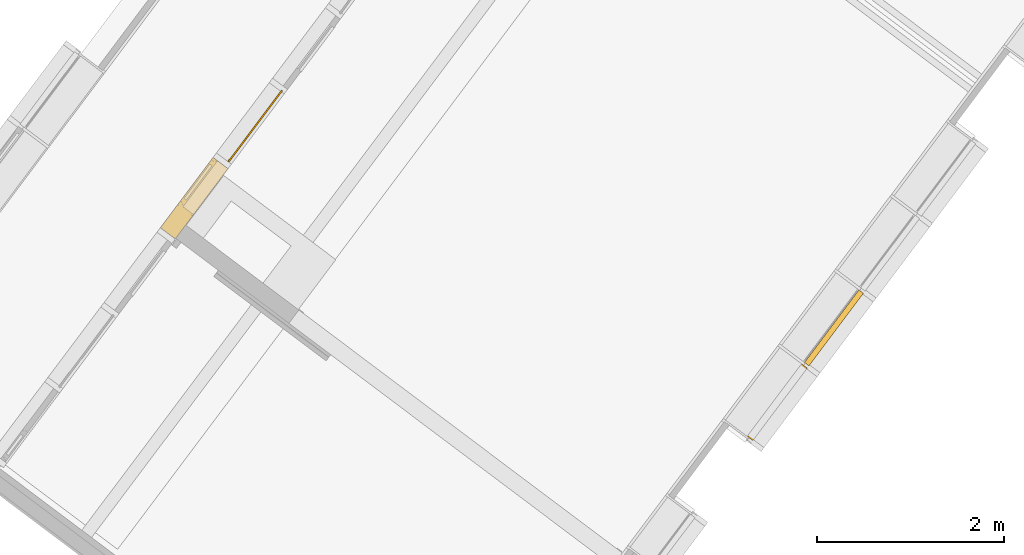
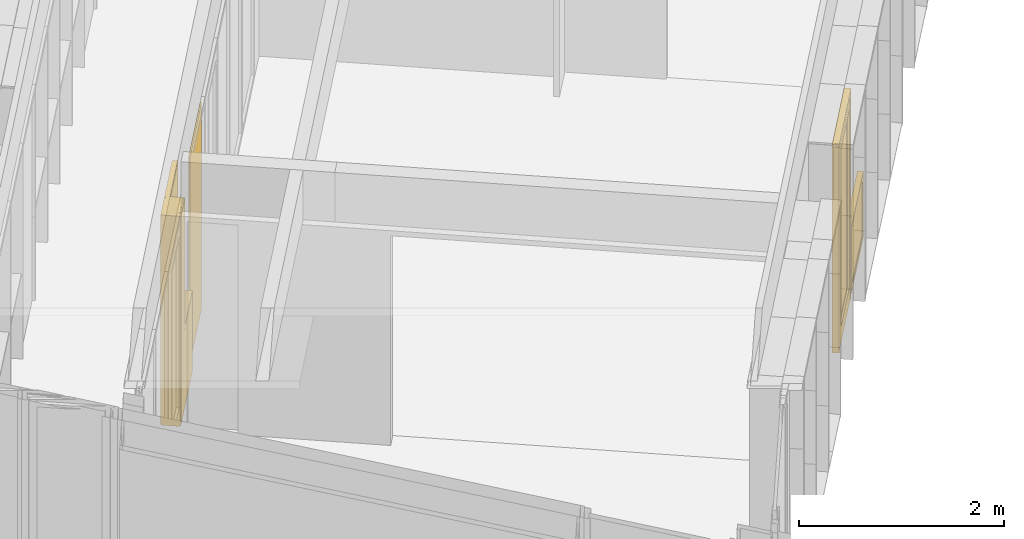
# One storey, part 146 of 243: 2 doors, 2 windows, 2 elements without a shape of their own.
"""IFC2X3 building model written with IfcOpenShell, lengths in metres."""

from ifc_helpers import new_model, entity, si_unit, converted_unit, derived_unit, direction, frame, origin, origin_2d_with_axis, place, context, subcontext, project, spatial, rectangle, extrude, faceted_brep, source, transform, mapped, material, material_list, type_object, type_shapes, element, aggregate, save


model = new_model("IFC2X3")

# Units and contexts
model_context = context("Model", 3, precision=1e-05, world=origin(), true_north=direction((6.123031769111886e-17, 1.0)))
body_context = subcontext(model_context, "Body", "Model", "MODEL_VIEW")
ifc_project = project(units=[si_unit("LENGTHUNIT", "METRE"), si_unit("AREAUNIT", "SQUARE_METRE"), si_unit("VOLUMEUNIT", "CUBIC_METRE"), converted_unit("PLANEANGLEUNIT", "DEGREE", entity("IfcRatioMeasure", 0.017453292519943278), si_unit("PLANEANGLEUNIT", "RADIAN"), dimensions=[0, 0, 0, 0, 0, 0, 0]), si_unit("MASSUNIT", "GRAM", prefix="KILO"), derived_unit("MASSDENSITYUNIT", [(si_unit("MASSUNIT", "GRAM", prefix="KILO"), 1), (si_unit("LENGTHUNIT", "METRE"), -3)]), derived_unit("IONCONCENTRATIONUNIT", [(si_unit("MASSUNIT", "GRAM", prefix="KILO"), 1), (si_unit("LENGTHUNIT", "METRE"), -3)]), derived_unit("MOMENTOFINERTIAUNIT", [(si_unit("LENGTHUNIT", "METRE"), 4)]), si_unit("TIMEUNIT", "SECOND"), si_unit("FREQUENCYUNIT", "HERTZ"), si_unit("THERMODYNAMICTEMPERATUREUNIT", "DEGREE_CELSIUS"), derived_unit("THERMALTRANSMITTANCEUNIT", [(si_unit("MASSUNIT", "GRAM", prefix="KILO"), 1), (si_unit("THERMODYNAMICTEMPERATUREUNIT", "KELVIN"), -1), (si_unit("TIMEUNIT", "SECOND"), -3)]), derived_unit("THERMALCONDUCTANCEUNIT", [(si_unit("MASSUNIT", "GRAM", prefix="KILO"), 1), (si_unit("THERMODYNAMICTEMPERATUREUNIT", "KELVIN"), -1), (si_unit("TIMEUNIT", "SECOND"), -3), (si_unit("LENGTHUNIT", "METRE"), 1)]), derived_unit("VOLUMETRICFLOWRATEUNIT", [(si_unit("LENGTHUNIT", "METRE"), 3), (si_unit("TIMEUNIT", "SECOND"), -1)]), derived_unit("MASSFLOWRATEUNIT", [(si_unit("MASSUNIT", "GRAM", prefix="KILO"), 1), (si_unit("TIMEUNIT", "SECOND"), -1)]), derived_unit("ROTATIONALFREQUENCYUNIT", [(si_unit("TIMEUNIT", "SECOND"), -1)]), si_unit("ELECTRICCURRENTUNIT", "AMPERE"), si_unit("ELECTRICVOLTAGEUNIT", "VOLT"), si_unit("POWERUNIT", "WATT"), si_unit("FORCEUNIT", "NEWTON", prefix="KILO"), si_unit("ILLUMINANCEUNIT", "LUX"), si_unit("LUMINOUSFLUXUNIT", "LUMEN"), si_unit("LUMINOUSINTENSITYUNIT", "CANDELA"), derived_unit("USERDEFINED", [(si_unit("MASSUNIT", "GRAM", prefix="KILO"), -1), (si_unit("LENGTHUNIT", "METRE"), -2), (si_unit("TIMEUNIT", "SECOND"), 3), (si_unit("LUMINOUSFLUXUNIT", "LUMEN"), 1)]), derived_unit("USERDEFINED", [(si_unit("MASSUNIT", "GRAM", prefix="KILO"), 1), (si_unit("TIMEUNIT", "SECOND"), -3), (si_unit("LENGTHUNIT", "METRE"), 3), (si_unit("ELECTRICCURRENTUNIT", "AMPERE"), -2)]), derived_unit("SOUNDPOWERUNIT", [(si_unit("MASSUNIT", "GRAM", prefix="KILO"), 1), (si_unit("TIMEUNIT", "SECOND"), -3), (si_unit("LENGTHUNIT", "METRE"), 2)]), derived_unit("SOUNDPRESSUREUNIT", [(si_unit("MASSUNIT", "GRAM", prefix="KILO"), 1), (si_unit("LENGTHUNIT", "METRE"), -1), (si_unit("TIMEUNIT", "SECOND"), -2)]), derived_unit("LINEARVELOCITYUNIT", [(si_unit("LENGTHUNIT", "METRE"), 1), (si_unit("TIMEUNIT", "SECOND"), -1)]), si_unit("PRESSUREUNIT", "PASCAL"), derived_unit("USERDEFINED", [(si_unit("MASSUNIT", "GRAM", prefix="KILO"), 1), (si_unit("LENGTHUNIT", "METRE"), -2), (si_unit("TIMEUNIT", "SECOND"), -2)]), derived_unit("LINEARFORCEUNIT", [(si_unit("MASSUNIT", "GRAM", prefix="KILO"), 1), (si_unit("TIMEUNIT", "SECOND"), -2)]), derived_unit("PLANARFORCEUNIT", [(si_unit("MASSUNIT", "GRAM", prefix="KILO"), 1), (si_unit("LENGTHUNIT", "METRE"), -1), (si_unit("TIMEUNIT", "SECOND"), -2)]), derived_unit("SPECIFICHEATCAPACITYUNIT", [(si_unit("THERMODYNAMICTEMPERATUREUNIT", "KELVIN"), -1), (si_unit("LENGTHUNIT", "METRE"), 2), (si_unit("TIMEUNIT", "SECOND"), -2)]), derived_unit("HEATINGVALUEUNIT", [(si_unit("LENGTHUNIT", "METRE"), 2), (si_unit("TIMEUNIT", "SECOND"), -2)]), derived_unit("VAPORPERMEABILITYUNIT", [(si_unit("LENGTHUNIT", "METRE"), -1), (si_unit("TIMEUNIT", "SECOND"), 1)]), derived_unit("DYNAMICVISCOSITYUNIT", [(si_unit("MASSUNIT", "GRAM", prefix="KILO"), 1), (si_unit("TIMEUNIT", "SECOND"), -1), (si_unit("LENGTHUNIT", "METRE"), -1)]), derived_unit("THERMALEXPANSIONCOEFFICIENTUNIT", [(si_unit("THERMODYNAMICTEMPERATUREUNIT", "KELVIN"), -1)]), derived_unit("MODULUSOFELASTICITYUNIT", [(si_unit("MASSUNIT", "GRAM", prefix="KILO"), 1), (si_unit("LENGTHUNIT", "METRE"), -1), (si_unit("TIMEUNIT", "SECOND"), -2)]), derived_unit("ISOTHERMALMOISTURECAPACITYUNIT", [(si_unit("LENGTHUNIT", "METRE"), 3), (si_unit("MASSUNIT", "GRAM", prefix="KILO"), -1)]), derived_unit("MOISTUREDIFFUSIVITYUNIT", [(si_unit("TIMEUNIT", "SECOND"), -1), (si_unit("LENGTHUNIT", "METRE"), 2)])], contexts=[model_context])

# Site, building, storey
site_placement = place(None, frame((0.0, 0.0, 235.0), z_axis=(0.0, 0.0, 1.0), x_axis=(-0.7996477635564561, 0.6004693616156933, 0.0)))
site = spatial("IfcSite", under=ifc_project, at=site_placement, Name="Default", CompositionType="ELEMENT")
building_placement = place(site_placement, origin())
building = spatial("IfcBuilding", under=site, at=building_placement, CompositionType="ELEMENT")
storey_placement = place(building_placement, origin())
storey = spatial("IfcBuildingStorey", under=building, at=storey_placement, Name="P0- Escola", CompositionType="ELEMENT", Elevation=0.0)

# Curtain wall, door, window
curtain_wall_type_1 = type_object("IfcCurtainWallType", Name="Muro cortina:MC- INT- a1", PredefinedType="NOTDEFINED")
curtain_wall_1_placement = place(storey_placement, origin())
curtain_wall_1 = element("IfcCurtainWall", 1, at=curtain_wall_1_placement, inside=storey, type_object=curtain_wall_type_1, Name="Muro cortina:MC- INT- a1", ObjectType="Muro cortina:MC- INT- a1")
ifc_material_1 = material(Name="_Fusta massisa- T1-  REV- PAV")
ifc_material_2 = material(Name="_Aillament")
ifc_material_list_1 = material_list([ifc_material_1, ifc_material_2])
door_style_1 = type_object("IfcDoorStyle", Name="MC- Fusta- Finestra ventilacio interior- Enva:MC- Fusta- Finestra ventilacio interior- Enva", ConstructionType="NOTDEFINED", OperationType="NOTDEFINED", ParameterTakesPrecedence=False, Sizeable=False, material=ifc_material_list_1)
shared_shape_1 = source(origin(), body_context, "Body", "Brep", [
    faceted_brep([(0.39300000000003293, 0.14500000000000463, 2.427999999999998), (-0.06799999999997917, 0.14500000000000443, 2.4280000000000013), (-0.06799999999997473, 0.14500000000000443, 1.0449999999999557), (0.39300000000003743, 0.14500000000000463, 1.0449999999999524), (-0.06799999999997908, 0.11500000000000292, 2.4280000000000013), (-0.0679999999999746, 0.11500000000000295, 1.0449999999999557), (0.39300000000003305, 0.11500000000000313, 2.427999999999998), (0.3930000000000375, 0.11500000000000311, 1.0449999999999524), (-0.11299999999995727, 0.15999999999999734, 2.4729999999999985), (-0.11299999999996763, 0.16000000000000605, 1.0), (-0.11299999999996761, 0.13000000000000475, 1.0), (-0.11299999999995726, 0.1299999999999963, 2.4729999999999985), (0.43800000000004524, 0.13000000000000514, 1.0), (0.43800000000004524, 0.16000000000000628, 1.0), (0.4380000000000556, 0.15999999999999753, 2.472999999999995), (0.4380000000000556, 0.13000000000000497, 2.4730000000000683), (-0.12799999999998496, 0.12999999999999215, 0.9850000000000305), (-0.12799999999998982, 0.13000000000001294, 2.4880000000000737), (0.4530000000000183, 0.13000000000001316, 2.4880000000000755), (0.45300000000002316, 0.12999999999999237, 0.9850000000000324), (-0.1279999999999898, 0.1000000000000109, 2.4880000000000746), (-0.12799999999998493, 0.09999999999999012, 0.9850000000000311), (0.45300000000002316, 0.09999999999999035, 0.985000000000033), (0.4530000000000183, 0.10000000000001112, 2.488000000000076)], [[[0, 1, 2, 3]], [[1, 4, 5, 2]], [[4, 6, 7, 5]], [[3, 7, 6, 0]], [[8, 9, 10, 11]], [[12, 13, 14, 15]], [[15, 14, 8, 11]], [[8, 14, 13, 9]], [[0, 6, 4, 1]], [[2, 5, 7, 3]], [[9, 13, 12, 10]], [[11, 10, 12, 15], [16, 17, 18, 19]], [[20, 21, 22, 23]], [[20, 23, 18, 17]], [[16, 21, 20, 17]], [[18, 23, 22, 19]], [[16, 19, 22, 21]]], outer=[[True], [True], [True], [True], [True], [True], [True], [True], [True], [True], [True], [False, True], [True], [True], [True], [True], [True]]),
    faceted_brep([(0.4650000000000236, 0.14500000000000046, 0.005000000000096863), (0.4650000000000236, 0.1450000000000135, 0.9480000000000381), (-0.16499999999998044, 0.14500000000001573, 0.9480000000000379), (-0.16499999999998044, 0.14500000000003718, 2.5000000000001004), (-0.46500000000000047, 0.14500000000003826, 2.5000000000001), (-0.46500000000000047, 0.14500000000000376, 0.005000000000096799), (0.46500000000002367, 0.15999999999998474, 0.005000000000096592), (0.46500000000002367, 0.15999999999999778, 0.9480000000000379), (-0.16499999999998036, 0.16, 0.9480000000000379), (-0.16499999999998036, 0.1600000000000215, 2.5000000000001), (-0.4650000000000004, 0.16000000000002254, 2.5000000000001), (-0.4650000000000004, 0.159999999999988, 0.005000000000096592)], [[[0, 1, 2, 3, 4, 5]], [[6, 7, 1, 0]], [[7, 8, 2, 1]], [[8, 9, 3, 2]], [[10, 11, 5, 4]], [[11, 6, 0, 5]], [[6, 11, 10, 9, 8, 7]], [[9, 10, 4, 3]]]),
    faceted_brep([(0.465000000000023, -0.039999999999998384, 0.0050000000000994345), (0.465000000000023, -0.039999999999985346, 0.9480000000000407), (-0.16499999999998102, -0.039999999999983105, 0.9480000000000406), (-0.16499999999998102, -0.03999999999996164, 2.500000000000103), (-0.4650000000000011, -0.03999999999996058, 2.5000000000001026), (-0.4650000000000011, -0.03999999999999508, 0.005000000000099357), (0.465000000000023, -0.025000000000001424, 0.005000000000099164), (0.465000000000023, -0.024999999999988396, 0.9480000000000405), (-0.164999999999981, -0.024999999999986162, 0.9480000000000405), (-0.164999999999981, -0.024999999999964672, 2.500000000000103), (-0.4650000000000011, -0.02499999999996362, 2.5000000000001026), (-0.4650000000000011, -0.024999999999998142, 0.00500000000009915)], [[[0, 1, 2, 3, 4, 5]], [[6, 7, 1, 0]], [[7, 8, 2, 1]], [[8, 9, 3, 2]], [[10, 11, 5, 4]], [[11, 6, 0, 5]], [[6, 11, 10, 9, 8, 7]], [[9, 10, 4, 3]]]),
    faceted_brep([(0.4700000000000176, -0.02500000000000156, 0.0), (0.4700000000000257, -0.024999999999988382, 0.9530000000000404), (-0.1599999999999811, -0.02499999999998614, 0.95300000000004), (-0.1599999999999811, -0.024999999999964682, 2.5050000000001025), (-0.47000000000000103, -0.02499999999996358, 2.5050000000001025), (-0.4699999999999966, -0.024999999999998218, 0.0), (0.47000000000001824, 0.14500000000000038, 0.0), (0.4700000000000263, 0.14500000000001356, 0.9530000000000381), (-0.1599999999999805, 0.14500000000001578, 0.9530000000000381), (-0.1599999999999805, 0.14500000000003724, 2.5050000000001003), (-0.4700000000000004, 0.14500000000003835, 2.5050000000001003), (-0.469999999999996, 0.1450000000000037, 0.0)], [[[0, 1, 2, 3, 4, 5]], [[6, 7, 1, 0]], [[7, 8, 2, 1]], [[8, 9, 3, 2]], [[10, 11, 5, 4]], [[11, 6, 0, 5]], [[6, 11, 10, 9, 8, 7]], [[9, 10, 4, 3]]]),
    faceted_brep([(0.4700000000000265, 0.15999999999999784, 0.9530000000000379), (0.4700000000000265, 0.15999999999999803, 0.9680000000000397), (0.4700000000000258, -0.04000000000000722, 0.9680000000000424), (0.4700000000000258, -0.04000000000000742, 0.9530000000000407), (-0.1599999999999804, 0.16000000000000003, 0.9530000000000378), (-0.1599999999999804, 0.1600000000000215, 2.505000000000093), (-0.14499999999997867, 0.16000000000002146, 2.505000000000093), (-0.1449999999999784, 0.16000000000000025, 0.9680000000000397), (-0.14499999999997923, -0.04000000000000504, 0.9680000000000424), (-0.1449999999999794, -0.0399999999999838, 2.505000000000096), (-0.15999999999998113, -0.039999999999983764, 2.505000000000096), (-0.15999999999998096, -0.04000000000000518, 0.9530000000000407)], [[[0, 1, 2, 3]], [[1, 0, 4, 5, 6, 7]], [[2, 1, 7, 8]], [[3, 2, 8, 9, 10, 11]], [[0, 3, 11, 4]], [[4, 11, 10, 5]], [[8, 7, 6, 9]], [[5, 10, 9, 6]]]),
    faceted_brep([(-0.14499999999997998, 0.10400000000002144, 2.5050000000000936), (-0.14499999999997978, 0.15600000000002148, 2.5050000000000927), (-0.14499999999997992, 0.15600000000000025, 0.9680000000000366), (-0.1449999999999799, 0.10400000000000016, 0.9680000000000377), (-0.13999999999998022, 0.15600000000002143, 2.5000000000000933), (-0.1399999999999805, 0.1560000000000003, 0.973000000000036), (0.46500000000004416, 0.15599999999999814, 0.9729999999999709), (0.46500000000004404, 0.15600000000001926, 2.5000000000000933), (0.47000000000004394, 0.1560000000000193, 2.505000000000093), (0.46999999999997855, 0.15599999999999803, 0.9680000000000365), (0.46999999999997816, 0.10399999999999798, 0.9680000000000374), (0.47000000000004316, 0.10400000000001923, 2.505000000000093), (0.4650000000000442, 0.1040000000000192, 2.5000000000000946), (0.46499999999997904, 0.10399999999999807, 0.9730000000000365), (-0.1399999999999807, 0.10400000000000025, 0.9730000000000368), (-0.13999999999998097, 0.10400000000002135, 2.5000000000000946), (-0.13999999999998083, 0.10000000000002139, 2.5000000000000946), (-0.1399999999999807, 0.10000000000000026, 0.9730000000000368), (0.4649999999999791, 0.09999999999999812, 0.9730000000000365), (0.46500000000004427, 0.10000000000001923, 2.5000000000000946), (0.45500000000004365, 0.10000000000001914, 2.490000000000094), (0.45499999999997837, 0.09999999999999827, 0.9830000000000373), (-0.12999999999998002, 0.10000000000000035, 0.9830000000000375), (-0.1299999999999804, 0.10000000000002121, 2.490000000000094), (-0.1299999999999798, 0.1300000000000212, 2.4900000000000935), (-0.12999999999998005, 0.13000000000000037, 0.983000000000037), (0.45499999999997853, 0.1299999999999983, 0.9830000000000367), (0.45500000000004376, 0.13000000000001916, 2.4900000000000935), (0.44000000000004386, 0.13000000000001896, 2.475000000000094), (0.43999999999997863, 0.1299999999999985, 0.9980000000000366), (-0.11499999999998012, 0.1300000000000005, 0.9980000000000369), (-0.11499999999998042, 0.13000000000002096, 2.475000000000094), (-0.11499999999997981, 0.16000000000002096, 2.475000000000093), (-0.11499999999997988, 0.1600000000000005, 0.9980000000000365), (0.43999999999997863, 0.15999999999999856, 0.9980000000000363), (0.4400000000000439, 0.160000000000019, 2.475000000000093), (0.46500000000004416, 0.16000000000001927, 2.5000000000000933), (0.4649999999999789, 0.15999999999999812, 0.973000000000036), (-0.13999999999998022, 0.16000000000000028, 0.9730000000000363), (-0.13999999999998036, 0.16000000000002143, 2.5000000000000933)], [[[0, 1, 2, 3]], [[4, 5, 6, 7], [8, 9, 2, 1]], [[3, 2, 9, 10]], [[0, 3, 10, 11], [12, 13, 14, 15]], [[16, 15, 14, 17]], [[17, 14, 13, 18]], [[16, 17, 18, 19], [20, 21, 22, 23]], [[24, 23, 22, 25]], [[25, 22, 21, 26]], [[24, 25, 26, 27], [28, 29, 30, 31]], [[32, 31, 30, 33]], [[33, 30, 29, 34]], [[32, 33, 34, 35], [36, 37, 38, 39]], [[4, 39, 38, 5]], [[5, 38, 37, 6]], [[10, 9, 8, 11]], [[18, 13, 12, 19]], [[26, 21, 20, 27]], [[34, 29, 28, 35]], [[6, 37, 36, 7]], [[11, 8, 1, 0]], [[19, 12, 15, 16]], [[27, 20, 23, 24]], [[35, 28, 31, 32]], [[7, 36, 39, 4]]], outer=[[True], [False, True], [True], [True, False], [True], [True], [True, False], [True], [True], [True, False], [True], [True], [False, True], [True], [True], [True], [True], [True], [True], [True], [True], [True], [True], [True], [True]]),
])
type_shapes(door_style_1, [shared_shape_1])
door_1_placement = place(curtain_wall_1_placement, frame((47.320147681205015, -23.915189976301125, 0.0), z_axis=(0.0, 0.0, 1.0), x_axis=(0.0, -1.0, 0.0)))
door_1 = element("IfcDoor", 2, at=door_1_placement, type_object=door_style_1, material=ifc_material_list_1, Name="MC- Fusta- Finestra ventilacio interior- Enva:MC- Fusta- Finestra ventilacio interior- Enva", ObjectType="MC- Fusta- Finestra ventilacio interior- Enva:MC- Fusta- Finestra ventilacio interior- Enva", OverallHeight=2.5050000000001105, OverallWidth=0.9400000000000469, context=body_context, shape_type="MappedRepresentation", body=[
    mapped(shared_shape_1, transform((0.0, 0.0, 0.0), scale=1.0)),
])
ifc_material_3 = material(Name="_Vidre")
window_style_1 = type_object("IfcWindowStyle", Name="MC- Fusta- vidre fix:MC- Fusta- vidre fix", ConstructionType="NOTDEFINED", OperationType="NOTDEFINED", ParameterTakesPrecedence=False, Sizeable=False, material=ifc_material_3)
shared_shape_2 = source(origin(), body_context, "Body", "SweptSolid", [
    extrude(rectangle(XDim=0.9549999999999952, YDim=0.015999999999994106, at=origin_2d_with_axis()), frame((0.0, 0.0, 0.0), z_axis=(0.0, 0.0, 1.0), x_axis=(-1.0, 0.0, 0.0)), (0.0, 0.0, 1.0), 2.46),
])
type_shapes(window_style_1, [shared_shape_2])
window_1_placement = place(curtain_wall_1_placement, frame((47.320147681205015, -24.922689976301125, 0.045000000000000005), z_axis=(0.0, 0.0, 1.0), x_axis=(0.0, -1.0, 0.0)))
window_1 = element("IfcWindow", 3, at=window_1_placement, type_object=window_style_1, material=ifc_material_3, Name="MC- Fusta- vidre fix:MC- Fusta- vidre fix", ObjectType="MC- Fusta- vidre fix:MC- Fusta- vidre fix", OverallHeight=2.46, OverallWidth=0.9549999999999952, context=body_context, shape_type="MappedRepresentation", body=[
    mapped(shared_shape_2, transform((0.0, 0.0, 0.0), scale=1.0)),
])
aggregate(curtain_wall_1, [door_1, window_1])

# Curtain wall, window, door
curtain_wall_type_2 = type_object("IfcCurtainWallType", Name="Muro cortina:MC- EXT- MC2", PredefinedType="NOTDEFINED")
curtain_wall_2_placement = place(storey_placement, origin())
curtain_wall_2 = element("IfcCurtainWall", 4, at=curtain_wall_2_placement, inside=storey, type_object=curtain_wall_type_2, Name="Muro cortina:MC- EXT- MC2", ObjectType="Muro cortina:MC- EXT- MC2")
ifc_material_4 = material(Name="_Alumini- T1- Perfil")
ifc_material_list_2 = material_list([ifc_material_3, ifc_material_4])
window_style_2 = type_object("IfcWindowStyle", Name="MC- Alu- Conjunt vidre fix- 62x60 cm:MC- Alu- Conjunt vidre fix- 62x60 cm", ConstructionType="NOTDEFINED", OperationType="NOTDEFINED", ParameterTakesPrecedence=False, Sizeable=False, material=ifc_material_list_2)
shared_shape_3 = source(origin(), body_context, "Body", "Brep", [
    faceted_brep([(0.4361932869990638, -0.007600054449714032, 0.048806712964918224), (0.4361932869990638, -0.03160022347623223, 0.048806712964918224), (-0.4361932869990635, -0.03160022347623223, 0.048806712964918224), (-0.4361932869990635, -0.007600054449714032, 0.048806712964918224), (0.4361932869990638, -0.007600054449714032, 0.7387000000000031), (-0.4361932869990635, -0.007600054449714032, 0.7387000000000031), (-0.4361932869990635, -0.03160022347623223, 0.7387000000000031), (0.4361932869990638, -0.03160022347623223, 0.7387000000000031)], [[[0, 1, 2, 3]], [[4, 0, 3, 5]], [[5, 3, 2, 6]], [[6, 2, 1, 7]], [[7, 1, 0, 4]], [[4, 5, 6, 7]]]),
    faceted_brep([(0.48499999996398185, -0.05999999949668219, 0.7877000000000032), (0.48499999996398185, -0.05999999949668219, 0.0), (0.48499999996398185, 0.0, 0.0), (0.48499999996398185, 0.0, 0.787700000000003), (-0.48499999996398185, 0.0, 0.7877000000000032), (-0.48499999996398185, 0.0, 0.0), (0.4221931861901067, 0.0, 0.7248931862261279), (-0.42219318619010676, 0.0, 0.724893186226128), (-0.4221931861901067, 0.0, 0.0628068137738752), (0.4221931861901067, 0.0, 0.06280681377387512), (-0.48499999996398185, -0.05999999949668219, 0.0), (-0.48499999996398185, -0.05999999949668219, 0.7877000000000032), (-0.42219603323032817, -0.05999999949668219, 0.7248960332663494), (0.42219603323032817, -0.05999999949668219, 0.7248960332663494), (0.42219603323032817, -0.05999999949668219, 0.0628039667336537), (-0.42219603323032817, -0.05999999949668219, 0.0628039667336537), (0.4221960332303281, -0.03160022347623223, 0.7248960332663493), (0.42219603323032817, -0.03160022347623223, 0.0628039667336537), (-0.42219603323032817, -0.03160022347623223, 0.06280396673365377), (-0.42219603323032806, -0.03160022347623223, 0.7248960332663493), (-0.43619328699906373, -0.03160022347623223, 0.738893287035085), (0.43619328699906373, -0.03160022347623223, 0.738893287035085), (0.43619328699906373, -0.03160022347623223, 0.048806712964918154), (-0.43619328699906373, -0.03160022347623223, 0.04880671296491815), (0.43619328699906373, -0.007600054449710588, 0.738893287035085), (0.43619328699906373, -0.007600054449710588, 0.04880671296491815), (-0.43619328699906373, -0.007600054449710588, 0.048806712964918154), (-0.43619328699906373, -0.007600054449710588, 0.738893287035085), (-0.42219318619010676, -0.007600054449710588, 0.724893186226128), (0.42219318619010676, -0.007600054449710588, 0.724893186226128), (0.42219318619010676, -0.007600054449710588, 0.06280681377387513), (-0.42219318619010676, -0.007600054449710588, 0.06280681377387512)], [[[0, 1, 2, 3]], [[4, 3, 2, 5], [6, 7, 8, 9]], [[1, 10, 5, 2]], [[0, 11, 10, 1], [12, 13, 14, 15]], [[16, 17, 14, 13]], [[17, 18, 15, 14]], [[16, 19, 18, 17], [20, 21, 22, 23]], [[24, 25, 22, 21]], [[25, 26, 23, 22]], [[24, 27, 26, 25], [28, 29, 30, 31]], [[6, 9, 30, 29]], [[9, 8, 31, 30]], [[10, 11, 4, 5]], [[18, 19, 12, 15]], [[26, 27, 20, 23]], [[8, 7, 28, 31]], [[11, 0, 3, 4]], [[19, 16, 13, 12]], [[27, 24, 21, 20]], [[7, 6, 29, 28]]], outer=[[True], [True, False], [True], [True, False], [True], [True], [False, True], [True], [True], [True, False], [True], [True], [True], [True], [True], [True], [True], [True], [True], [True]]),
])
type_shapes(window_style_2, [shared_shape_3])
window_2_placement = place(curtain_wall_2_placement, frame((41.045147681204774, -26.91519175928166, 0.03229999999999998), z_axis=(0.0, 0.0, 1.0), x_axis=(0.0, 1.0, 0.0)))
window_2 = element("IfcWindow", 5, at=window_2_placement, type_object=window_style_2, material=ifc_material_list_2, Name="MC- Alu- Conjunt vidre fix- 62x60 cm:MC- Alu- Conjunt vidre fix- 62x60 cm", ObjectType="MC- Alu- Conjunt vidre fix- 62x60 cm:MC- Alu- Conjunt vidre fix- 62x60 cm", OverallHeight=0.7877000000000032, OverallWidth=0.9699999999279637, context=body_context, shape_type="MappedRepresentation", body=[
    mapped(shared_shape_3, transform((0.0, 0.0, 0.0), scale=1.0)),
])
ifc_material_list_3 = material_list([ifc_material_4, ifc_material_3])
door_style_2 = type_object("IfcDoorStyle", Name="MC- Alu- Conjunt porta- 70x60 cm- +15cm- obertura int:MC- Alu- Conjunt porta- 70x60 cm- +15cm- obertura int", ConstructionType="NOTDEFINED", OperationType="NOTDEFINED", ParameterTakesPrecedence=False, Sizeable=False, material=ifc_material_list_3)
shared_shape_4 = source(origin(), body_context, "Body", "Brep", [
    faceted_brep([(0.411699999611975, 0.0, 0.024000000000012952), (0.411699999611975, -0.0656997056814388, 0.024000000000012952), (-0.41169999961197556, -0.06569970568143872, 0.024000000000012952), (-0.41169999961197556, 0.0, 0.024000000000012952), (0.41169999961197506, -0.0656997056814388, 2.410449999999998), (0.41169999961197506, 0.0, 2.410449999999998), (-0.41169999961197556, -0.06569970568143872, 2.410449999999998), (-0.4356999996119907, -0.06569970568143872, 0.0), (-0.4356999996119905, -0.06569970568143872, 2.4344500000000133), (0.4356999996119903, -0.06569970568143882, 2.4344500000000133), (0.4356999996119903, -0.0656997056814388, 0.0), (-0.41169999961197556, 0.0, 2.410449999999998), (0.33509999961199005, 0.0, 2.333850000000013), (-0.33509999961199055, 0.0, 2.3338500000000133), (-0.33509999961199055, 0.0, 0.20400000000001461), (0.33509999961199, 0.0, 0.20400000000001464), (-0.4356999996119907, -0.06999970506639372, 2.4344500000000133), (-0.4356999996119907, -0.0699997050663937, 0.0), (0.4356999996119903, -0.06999970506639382, 0.0), (0.43569999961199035, -0.06999970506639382, 2.4344500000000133), (-0.33509999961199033, -0.06999970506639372, 2.333850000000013), (0.33509999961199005, -0.06999970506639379, 2.333850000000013), (0.33509999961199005, -0.0699997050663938, 0.20400000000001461), (-0.33509999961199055, -0.06999970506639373, 0.20400000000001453), (-0.3350999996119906, -0.06449970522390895, 2.333850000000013), (-0.3350999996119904, -0.06449970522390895, 0.20400000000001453), (0.33509999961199, -0.06449970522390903, 0.20400000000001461), (0.33509999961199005, -0.06449970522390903, 2.333850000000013), (-0.36010000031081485, -0.06449970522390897, 2.3588500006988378), (0.3601000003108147, -0.06449970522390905, 2.3588500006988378), (0.3601000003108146, -0.06449970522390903, 0.17899999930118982), (-0.36010000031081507, -0.06449970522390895, 0.17899999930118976), (-0.3601000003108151, -0.018999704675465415, 2.3588500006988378), (-0.36010000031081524, -0.01899970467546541, 0.17899999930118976), (0.36010000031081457, -0.01899970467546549, 0.17899999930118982), (0.36010000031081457, -0.01899970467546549, 2.3588500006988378), (-0.33509999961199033, -0.018999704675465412, 2.333850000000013), (0.33509999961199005, -0.018999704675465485, 2.333850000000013), (0.33509999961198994, -0.01899970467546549, 0.20400000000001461), (-0.33509999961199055, -0.018999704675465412, 0.20400000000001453)], [[[0, 1, 2, 3]], [[4, 1, 0, 5]], [[2, 1, 4, 6], [7, 8, 9, 10]], [[2, 6, 11, 3]], [[12, 13, 14, 15], [11, 5, 0, 3]], [[16, 8, 7, 17]], [[10, 18, 17, 7]], [[18, 19, 16, 17], [20, 21, 22, 23]], [[24, 20, 23, 25]], [[23, 22, 26, 25]], [[27, 24, 25, 26], [28, 29, 30, 31]], [[32, 28, 31, 33]], [[33, 31, 30, 34]], [[35, 32, 33, 34], [36, 37, 38, 39]], [[13, 36, 39, 14]], [[39, 38, 15, 14]], [[9, 19, 18, 10]], [[21, 27, 26, 22]], [[29, 35, 34, 30]], [[37, 12, 15, 38]], [[19, 9, 8, 16]], [[27, 21, 20, 24]], [[35, 29, 28, 32]], [[12, 37, 36, 13]], [[4, 5, 11, 6]]], outer=[[True], [True], [False, True], [True], [False, True], [True], [True], [True, False], [True], [True], [False, True], [True], [True], [True, False], [True], [True], [True], [True], [True], [True], [True], [True], [True], [True], [True]]),
    faceted_brep([(-0.36010000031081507, -0.06089980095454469, 0.17899999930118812), (-0.36010000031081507, -0.02889980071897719, 0.17899999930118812), (0.3601000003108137, -0.028899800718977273, 0.17899999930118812), (0.3601000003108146, -0.06089980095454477, 0.17899999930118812), (-0.36010000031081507, -0.06089980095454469, 2.3588500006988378), (-0.36010000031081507, -0.028899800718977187, 2.3588500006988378), (0.3601000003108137, -0.028899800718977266, 2.3588500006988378), (0.3601000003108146, -0.06089980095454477, 2.3588500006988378)], [[[0, 1, 2, 3]], [[4, 5, 1, 0]], [[5, 6, 2, 1]], [[6, 7, 3, 2]], [[7, 4, 0, 3]], [[4, 7, 6, 5]]]),
    faceted_brep([(0.4849999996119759, -0.06999999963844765, 0.0), (0.44369999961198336, -0.06999999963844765, 0.0), (0.44369999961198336, -0.059699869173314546, 0.0), (0.4331999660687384, -0.059699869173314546, 0.0), (0.4331999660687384, -0.008800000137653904, 0.0), (0.4176999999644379, -0.008800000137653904, 0.0), (0.4176999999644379, 0.0, 0.0), (0.4849999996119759, 0.0, 0.0), (0.4849999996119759, -0.06999999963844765, 2.4837499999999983), (-0.4849999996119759, -0.06999999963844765, 2.4837499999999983), (-0.4849999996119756, -0.06999999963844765, 0.0), (-0.4436999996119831, -0.06999999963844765, 0.0), (-0.4436999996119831, -0.06999999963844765, 2.442450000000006), (0.44369999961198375, -0.06999999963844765, 2.4424500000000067), (0.44369999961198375, -0.059699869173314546, 2.4424500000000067), (-0.44369999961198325, -0.059699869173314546, 2.442450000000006), (-0.44369999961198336, -0.059699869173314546, 0.0), (-0.4331999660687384, -0.059699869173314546, 0.0), (-0.4331999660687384, -0.059699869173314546, 2.4319499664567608), (0.4331999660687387, -0.059699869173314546, 2.431949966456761), (0.4331999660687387, -0.008800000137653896, 2.431949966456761), (-0.4331999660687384, -0.008800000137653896, 2.4319499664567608), (-0.4331999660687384, -0.008800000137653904, 0.0), (-0.4176999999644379, -0.008800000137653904, 0.0), (-0.4176999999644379, -0.008800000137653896, 2.4164500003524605), (0.417699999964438, -0.008800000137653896, 2.4164500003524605), (0.417699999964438, 0.0, 2.4164500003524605), (-0.4176999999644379, 0.0, 2.4164500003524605), (-0.4176999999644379, 0.0, 0.0), (-0.4849999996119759, 0.0, 0.0), (-0.4849999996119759, 0.0, 2.4837499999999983), (0.48499999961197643, 0.0, 2.4837499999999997)], [[[0, 1, 2, 3, 4, 5, 6, 7]], [[1, 0, 8, 9, 10, 11, 12, 13]], [[2, 1, 13, 14]], [[3, 2, 14, 15, 16, 17, 18, 19]], [[4, 3, 19, 20]], [[5, 4, 20, 21, 22, 23, 24, 25]], [[6, 5, 25, 26]], [[7, 6, 26, 27, 28, 29, 30, 31]], [[0, 7, 31, 8]], [[10, 29, 28, 23, 22, 17, 16, 11]], [[9, 30, 29, 10]], [[27, 24, 23, 28]], [[21, 18, 17, 22]], [[15, 12, 11, 16]], [[14, 13, 12, 15]], [[20, 19, 18, 21]], [[26, 25, 24, 27]], [[8, 31, 30, 9]]]),
])
type_shapes(door_style_2, [shared_shape_4])
door_2_placement = place(curtain_wall_2_placement, frame((41.045147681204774, -25.915191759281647, 0.020000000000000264), z_axis=(0.0, 0.0, 1.0), x_axis=(0.0, 1.0, 0.0)))
door_2 = element("IfcDoor", 6, at=door_2_placement, type_object=door_style_2, material=ifc_material_list_3, Name="MC- Alu- Conjunt porta- 70x60 cm- +15cm- obertura int:MC- Alu- Conjunt porta- 70x60 cm- +15cm- obertura int", ObjectType="MC- Alu- Conjunt porta- 70x60 cm- +15cm- obertura int:MC- Alu- Conjunt porta- 70x60 cm- +15cm- obertura int", OverallHeight=2.483750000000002, OverallWidth=0.9699999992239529, context=body_context, shape_type="MappedRepresentation", body=[
    mapped(shared_shape_4, transform((0.0, 0.0, 0.0), scale=1.0)),
])
aggregate(curtain_wall_2, [door_2, window_2])

save(model, "model.ifc")
